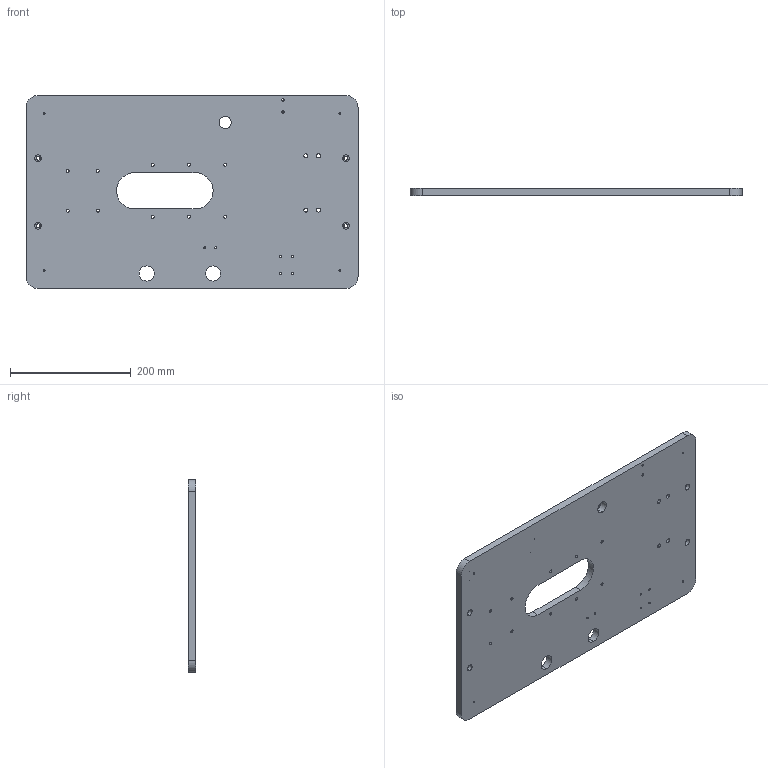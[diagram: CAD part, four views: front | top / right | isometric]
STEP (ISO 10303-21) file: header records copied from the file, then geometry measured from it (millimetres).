
FILE_DESCRIPTION (( 'STEP AP214' ), '1' );
FILE_NAME ('GZ30.01_V1底板.STEP', '2021-06-04T01:00:47', ( '微软中国' ), ( 'Microsoft' ), 'SwSTEP 2.0', 'SolidWorks 2017', '' );
FILE_SCHEMA (( 'AUTOMOTIVE_DESIGN' ));
Length unit declared in the file: millimetre
Products named in the file (1): GZ30.01_V1菁啣
Bounding box: 550 x 12 x 320 mm (x, y, z)
Volume: 1976988.9 mm3; surface area: 364263.9 mm2
Topology: 1 solids, 1 shells, 128 faces, 344 edges, 211 vertices
Faces by surface type: cylinder 94, cone 22, plane 12
Entity records: 4762 total; most frequent: DIRECTION 768, CARTESIAN_POINT 662, ORIENTED_EDGE 644, EDGE_CURVE 322, AXIS2_PLACEMENT_3D 317, VERTEX_POINT 211, EDGE_LOOP 203, CIRCLE 188
